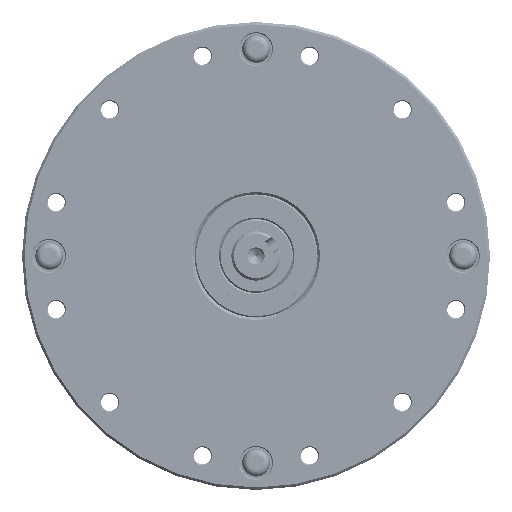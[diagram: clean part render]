
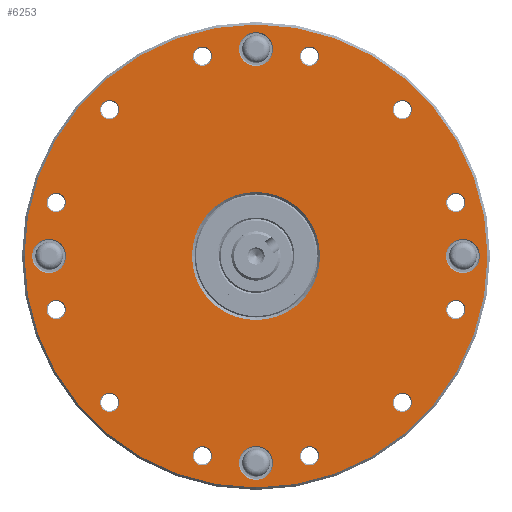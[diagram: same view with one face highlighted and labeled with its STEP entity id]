
A CAD part, front view. The second image highlights one B-rep face of the part: STEP entity #6253.
In plain terms, the highlighted planar face has unit normal (0, -1, 0).
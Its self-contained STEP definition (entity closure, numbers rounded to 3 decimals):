
#5516=PLANE('',#19660);
#6253=ADVANCED_FACE('',(#7950,#7951,#7952,#7953,#7954,#7955,#7956,#7957,
#7958,#7959,#7960,#7961,#7962,#7963,#7964,#7965,#7966,#7967),#5516,.F.);
#7950=FACE_BOUND('',#9623,.T.);
#7951=FACE_BOUND('',#9624,.T.);
#7952=FACE_BOUND('',#9625,.T.);
#7953=FACE_BOUND('',#9626,.T.);
#7954=FACE_BOUND('',#9627,.T.);
#7955=FACE_BOUND('',#9628,.T.);
#7956=FACE_BOUND('',#9629,.T.);
#7957=FACE_BOUND('',#9630,.T.);
#7958=FACE_BOUND('',#9631,.T.);
#7959=FACE_BOUND('',#9632,.T.);
#7960=FACE_BOUND('',#9633,.T.);
#7961=FACE_BOUND('',#9634,.T.);
#7962=FACE_BOUND('',#9635,.T.);
#7963=FACE_BOUND('',#9636,.T.);
#7964=FACE_BOUND('',#9637,.T.);
#7965=FACE_BOUND('',#9638,.T.);
#7966=FACE_BOUND('',#9639,.T.);
#7967=FACE_BOUND('',#9640,.T.);
#9623=EDGE_LOOP('',(#12195));
#9624=EDGE_LOOP('',(#12196));
#9625=EDGE_LOOP('',(#12197));
#9626=EDGE_LOOP('',(#12198));
#9627=EDGE_LOOP('',(#12199));
#9628=EDGE_LOOP('',(#12200));
#9629=EDGE_LOOP('',(#12201));
#9630=EDGE_LOOP('',(#12202));
#9631=EDGE_LOOP('',(#12203));
#9632=EDGE_LOOP('',(#12204));
#9633=EDGE_LOOP('',(#12205));
#9634=EDGE_LOOP('',(#12206));
#9635=EDGE_LOOP('',(#12207));
#9636=EDGE_LOOP('',(#12208));
#9637=EDGE_LOOP('',(#12209));
#9638=EDGE_LOOP('',(#12210));
#9639=EDGE_LOOP('',(#12211));
#9640=EDGE_LOOP('',(#12212));
#12195=ORIENTED_EDGE('',*,*,#16835,.T.);
#12196=ORIENTED_EDGE('',*,*,#16836,.T.);
#12197=ORIENTED_EDGE('',*,*,#16837,.T.);
#12198=ORIENTED_EDGE('',*,*,#16838,.T.);
#12199=ORIENTED_EDGE('',*,*,#16839,.T.);
#12200=ORIENTED_EDGE('',*,*,#16840,.T.);
#12201=ORIENTED_EDGE('',*,*,#16841,.T.);
#12202=ORIENTED_EDGE('',*,*,#16842,.T.);
#12203=ORIENTED_EDGE('',*,*,#16843,.T.);
#12204=ORIENTED_EDGE('',*,*,#16844,.T.);
#12205=ORIENTED_EDGE('',*,*,#16845,.T.);
#12206=ORIENTED_EDGE('',*,*,#16846,.T.);
#12207=ORIENTED_EDGE('',*,*,#16847,.T.);
#12208=ORIENTED_EDGE('',*,*,#16848,.T.);
#12209=ORIENTED_EDGE('',*,*,#16849,.T.);
#12210=ORIENTED_EDGE('',*,*,#16850,.T.);
#12211=ORIENTED_EDGE('',*,*,#16851,.T.);
#12212=ORIENTED_EDGE('',*,*,#16852,.T.);
#15121=VERTEX_POINT('',#54418);
#15122=VERTEX_POINT('',#54420);
#15123=VERTEX_POINT('',#54422);
#15124=VERTEX_POINT('',#54424);
#15125=VERTEX_POINT('',#54426);
#15126=VERTEX_POINT('',#54428);
#15127=VERTEX_POINT('',#54430);
#15128=VERTEX_POINT('',#54432);
#15129=VERTEX_POINT('',#54434);
#15130=VERTEX_POINT('',#54436);
#15131=VERTEX_POINT('',#54438);
#15132=VERTEX_POINT('',#54440);
#15133=VERTEX_POINT('',#54442);
#15134=VERTEX_POINT('',#54444);
#15135=VERTEX_POINT('',#54446);
#15136=VERTEX_POINT('',#54448);
#15137=VERTEX_POINT('',#54450);
#15138=VERTEX_POINT('',#54452);
#16835=EDGE_CURVE('',#15121,#15121,#18381,.T.);
#16836=EDGE_CURVE('',#15122,#15122,#18382,.T.);
#16837=EDGE_CURVE('',#15123,#15123,#18383,.T.);
#16838=EDGE_CURVE('',#15124,#15124,#18384,.T.);
#16839=EDGE_CURVE('',#15125,#15125,#18385,.T.);
#16840=EDGE_CURVE('',#15126,#15126,#18386,.T.);
#16841=EDGE_CURVE('',#15127,#15127,#18387,.T.);
#16842=EDGE_CURVE('',#15128,#15128,#18388,.T.);
#16843=EDGE_CURVE('',#15129,#15129,#18389,.T.);
#16844=EDGE_CURVE('',#15130,#15130,#18390,.T.);
#16845=EDGE_CURVE('',#15131,#15131,#18391,.T.);
#16846=EDGE_CURVE('',#15132,#15132,#18392,.T.);
#16847=EDGE_CURVE('',#15133,#15133,#18393,.T.);
#16848=EDGE_CURVE('',#15134,#15134,#18394,.T.);
#16849=EDGE_CURVE('',#15135,#15135,#18395,.T.);
#16850=EDGE_CURVE('',#15136,#15136,#18396,.T.);
#16851=EDGE_CURVE('',#15137,#15137,#18397,.T.);
#16852=EDGE_CURVE('',#15138,#15138,#18398,.T.);
#18381=CIRCLE('',#19642,13.);
#18382=CIRCLE('',#19643,47.);
#18383=CIRCLE('',#19644,3.45);
#18384=CIRCLE('',#19645,3.45);
#18385=CIRCLE('',#19646,3.45);
#18386=CIRCLE('',#19647,3.45);
#18387=CIRCLE('',#19648,1.95);
#18388=CIRCLE('',#19649,1.95);
#18389=CIRCLE('',#19650,1.95);
#18390=CIRCLE('',#19651,1.95);
#18391=CIRCLE('',#19652,1.95);
#18392=CIRCLE('',#19653,1.95);
#18393=CIRCLE('',#19654,1.95);
#18394=CIRCLE('',#19655,1.95);
#18395=CIRCLE('',#19656,1.95);
#18396=CIRCLE('',#19657,1.95);
#18397=CIRCLE('',#19658,1.95);
#18398=CIRCLE('',#19659,1.95);
#19642=AXIS2_PLACEMENT_3D('',#54417,#22545,#22546);
#19643=AXIS2_PLACEMENT_3D('',#54419,#22547,#22548);
#19644=AXIS2_PLACEMENT_3D('',#54421,#22549,#22550);
#19645=AXIS2_PLACEMENT_3D('',#54423,#22551,#22552);
#19646=AXIS2_PLACEMENT_3D('',#54425,#22553,#22554);
#19647=AXIS2_PLACEMENT_3D('',#54427,#22555,#22556);
#19648=AXIS2_PLACEMENT_3D('',#54429,#22557,#22558);
#19649=AXIS2_PLACEMENT_3D('',#54431,#22559,#22560);
#19650=AXIS2_PLACEMENT_3D('',#54433,#22561,#22562);
#19651=AXIS2_PLACEMENT_3D('',#54435,#22563,#22564);
#19652=AXIS2_PLACEMENT_3D('',#54437,#22565,#22566);
#19653=AXIS2_PLACEMENT_3D('',#54439,#22567,#22568);
#19654=AXIS2_PLACEMENT_3D('',#54441,#22569,#22570);
#19655=AXIS2_PLACEMENT_3D('',#54443,#22571,#22572);
#19656=AXIS2_PLACEMENT_3D('',#54445,#22573,#22574);
#19657=AXIS2_PLACEMENT_3D('',#54447,#22575,#22576);
#19658=AXIS2_PLACEMENT_3D('',#54449,#22577,#22578);
#19659=AXIS2_PLACEMENT_3D('',#54451,#22579,#22580);
#19660=AXIS2_PLACEMENT_3D('',#54453,#22581,#22582);
#22545=DIRECTION('',(0.,1.,0.));
#22546=DIRECTION('',(0.,0.,1.));
#22547=DIRECTION('',(0.,-1.,0.));
#22548=DIRECTION('',(0.,0.,1.));
#22549=DIRECTION('',(0.,1.,0.));
#22550=DIRECTION('',(0.,0.,1.));
#22551=DIRECTION('',(0.,1.,0.));
#22552=DIRECTION('',(0.,0.,1.));
#22553=DIRECTION('',(0.,1.,0.));
#22554=DIRECTION('',(0.,0.,1.));
#22555=DIRECTION('',(0.,1.,0.));
#22556=DIRECTION('',(0.,0.,1.));
#22557=DIRECTION('',(0.,1.,0.));
#22558=DIRECTION('',(0.,0.,1.));
#22559=DIRECTION('',(0.,1.,0.));
#22560=DIRECTION('',(0.,0.,1.));
#22561=DIRECTION('',(0.,1.,0.));
#22562=DIRECTION('',(0.,0.,1.));
#22563=DIRECTION('',(0.,1.,0.));
#22564=DIRECTION('',(0.,0.,1.));
#22565=DIRECTION('',(0.,1.,0.));
#22566=DIRECTION('',(0.,0.,1.));
#22567=DIRECTION('',(0.,1.,0.));
#22568=DIRECTION('',(0.,0.,1.));
#22569=DIRECTION('',(0.,1.,0.));
#22570=DIRECTION('',(0.,0.,1.));
#22571=DIRECTION('',(0.,1.,0.));
#22572=DIRECTION('',(0.,0.,1.));
#22573=DIRECTION('',(0.,1.,0.));
#22574=DIRECTION('',(0.,0.,1.));
#22575=DIRECTION('',(0.,1.,0.));
#22576=DIRECTION('',(0.,0.,1.));
#22577=DIRECTION('',(0.,1.,0.));
#22578=DIRECTION('',(0.,0.,1.));
#22579=DIRECTION('',(0.,1.,0.));
#22580=DIRECTION('',(0.,0.,1.));
#22581=DIRECTION('',(0.,1.,0.));
#22582=DIRECTION('',(0.,0.,1.));
#54417=CARTESIAN_POINT('',(0.,0.,0.));
#54418=CARTESIAN_POINT('',(0.,0.,13.));
#54419=CARTESIAN_POINT('',(0.,0.,0.));
#54420=CARTESIAN_POINT('',(0.,0.,47.));
#54421=CARTESIAN_POINT('',(0.,0.,-42.));
#54422=CARTESIAN_POINT('',(0.,0.,-38.55));
#54423=CARTESIAN_POINT('',(-42.,0.,0.));
#54424=CARTESIAN_POINT('',(-42.,0.,3.45));
#54425=CARTESIAN_POINT('',(0.,0.,42.));
#54426=CARTESIAN_POINT('',(0.,0.,45.45));
#54427=CARTESIAN_POINT('',(42.,0.,0.));
#54428=CARTESIAN_POINT('',(42.,0.,3.45));
#54429=CARTESIAN_POINT('',(29.698,0.,-29.698));
#54430=CARTESIAN_POINT('',(29.698,0.,-27.748));
#54431=CARTESIAN_POINT('',(40.569,0.,-10.87));
#54432=CARTESIAN_POINT('',(40.569,0.,-8.92));
#54433=CARTESIAN_POINT('',(40.569,0.,10.87));
#54434=CARTESIAN_POINT('',(40.569,0.,12.82));
#54435=CARTESIAN_POINT('',(29.698,0.,29.698));
#54436=CARTESIAN_POINT('',(29.698,0.,31.648));
#54437=CARTESIAN_POINT('',(10.87,0.,40.569));
#54438=CARTESIAN_POINT('',(10.87,0.,42.519));
#54439=CARTESIAN_POINT('',(-10.87,0.,40.569));
#54440=CARTESIAN_POINT('',(-10.87,0.,42.519));
#54441=CARTESIAN_POINT('',(-29.698,0.,29.698));
#54442=CARTESIAN_POINT('',(-29.698,0.,31.648));
#54443=CARTESIAN_POINT('',(-40.569,0.,10.87));
#54444=CARTESIAN_POINT('',(-40.569,0.,12.82));
#54445=CARTESIAN_POINT('',(-40.569,0.,-10.87));
#54446=CARTESIAN_POINT('',(-40.569,0.,-8.92));
#54447=CARTESIAN_POINT('',(-29.698,0.,-29.698));
#54448=CARTESIAN_POINT('',(-29.698,0.,-27.748));
#54449=CARTESIAN_POINT('',(-10.87,0.,-40.569));
#54450=CARTESIAN_POINT('',(-10.87,0.,-38.619));
#54451=CARTESIAN_POINT('',(10.87,0.,-40.569));
#54452=CARTESIAN_POINT('',(10.87,0.,-38.619));
#54453=CARTESIAN_POINT('',(20.,0.,0.));
